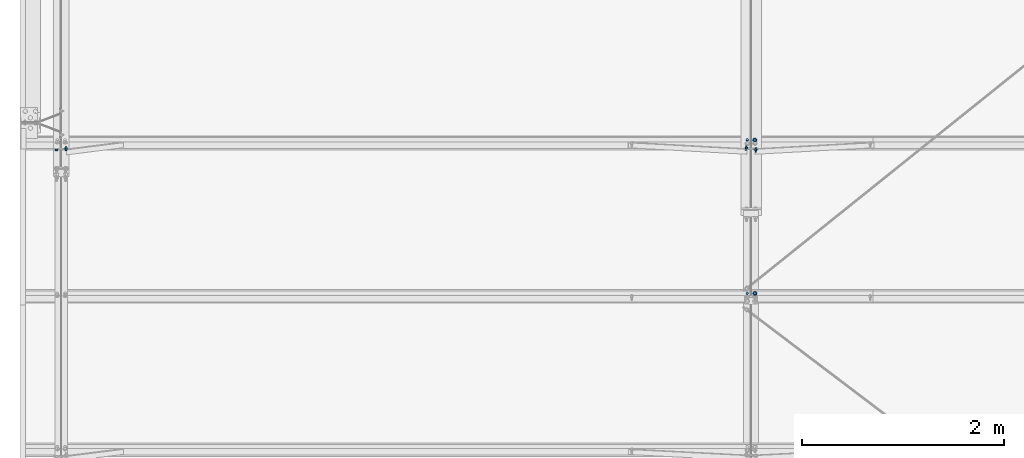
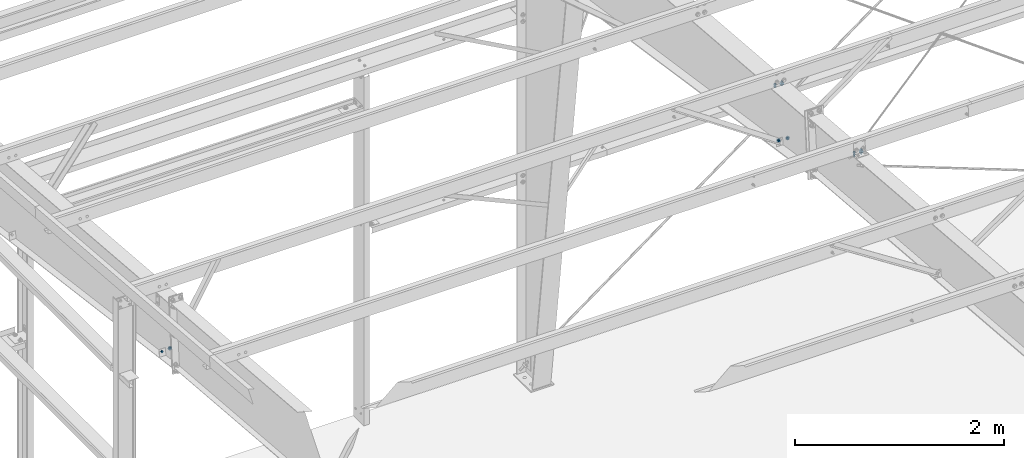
# One storey, part 149 of 185: 11 mechanical fasteners, 7 elements without a shape of their own.
"""IFC2X3 building model written with IfcOpenShell, lengths in millimetres."""

from ifc_helpers import new_model, si_unit, frame, origin_with_axes, origin_2d_with_axis, place, context, subcontext, project, spatial, polyline, circle, outline, extrude, source, transform, mapped, material, type_object, element, aggregate, save


model = new_model("IFC2X3")

# Units and contexts
model_context = context("Model", 3, precision=1e-05, world=origin_with_axes())
body_context = subcontext(model_context, "Body", "Model", "MODEL_VIEW")
ifc_project = project(units=[si_unit("LENGTHUNIT", "METRE", prefix="MILLI"), si_unit("AREAUNIT", "SQUARE_METRE"), si_unit("VOLUMEUNIT", "CUBIC_METRE"), si_unit("MASSUNIT", "GRAM", prefix="KILO"), si_unit("TIMEUNIT", "SECOND"), si_unit("PLANEANGLEUNIT", "RADIAN"), si_unit("SOLIDANGLEUNIT", "STERADIAN"), si_unit("THERMODYNAMICTEMPERATUREUNIT", "DEGREE_CELSIUS"), si_unit("LUMINOUSINTENSITYUNIT", "LUMEN")], contexts=[model_context])

# Site, building, storey
site_placement = place(None, origin_with_axes())
site = spatial("IfcSite", under=ifc_project, at=site_placement, Name="Undefined", CompositionType="ELEMENT")
building_placement = place(site_placement, origin_with_axes())
building = spatial("IfcBuilding", under=site, at=building_placement, Name="Undefined", CompositionType="ELEMENT")
storey_placement = place(building_placement, origin_with_axes())
storey = spatial("IfcBuildingStorey", under=building, at=storey_placement, Name="Undefined", CompositionType="ELEMENT", Elevation=0.0)

# Assembly, mechanical fastener
assembly_1_placement = place(storey_placement, origin_with_axes())
assembly_1 = element("IfcElementAssembly", 1, at=assembly_1_placement, inside=storey, Name="Steel Assembly", AssemblyPlace="NOTDEFINED", PredefinedType="RIGID_FRAME")
ifc_material_1 = material(Name="Undefined")
discrete_accessory_type = type_object("IfcDiscreteAccessoryType", Name="Bolt assembly")
shared_shape_1 = source(origin_with_axes(), body_context, "Body", "SweptSolid", [
    extrude(circle(Radius=7.14374971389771, at=origin_2d_with_axis()), frame((0.0, -1.59000001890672, 0.0), z_axis=(0.0, 1.0, 0.0), x_axis=(1.0, 0.0, 0.0)), (0.0, 0.0, 1.0), 1.7),
    extrude(outline(polyline([(10.9985221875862, 0.0), (5.4992610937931, 9.52499961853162), (-5.4992610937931, 9.52499961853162), (-10.9985221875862, 0.0), (-5.4992610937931, -9.52499961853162), (5.4992610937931, -9.52499961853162), (10.9985221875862, 0.0)])), frame((0.0, -15.0837496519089, 0.0), z_axis=(0.0, 1.0, 0.0), x_axis=(1.0, 0.0, 0.0)), (0.0, 0.0, 1.0), 9.5),
    extrude(circle(Radius=6.34999990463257, at=origin_2d_with_axis()), frame((0.0, -5.5587500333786, 0.0), z_axis=(0.0, 1.0, 0.0), x_axis=(1.0, 0.0, 0.0)), (0.0, 0.0, 1.0), 38.1),
    extrude(circle(Radius=13.4937496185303, at=origin_2d_with_axis()), frame((0.0, -5.5587500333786, 0.0), z_axis=(0.0, 1.0, 0.0), x_axis=(1.0, 0.0, 0.0)), (0.0, 0.0, 1.0), 4.0),
    extrude(circle(Radius=22.2250003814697, at=origin_2d_with_axis()), frame((0.0, 0.0, 0.0), z_axis=(0.0, 1.0, 0.0), x_axis=(1.0, 0.0, 0.0)), (0.0, 0.0, 1.0), 7.9),
    extrude(outline(polyline([(12.8316099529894, 0.0), (6.4158049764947, 11.1125001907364), (-6.4158049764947, 11.1125001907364), (-12.8316099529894, 0.0), (-6.4158049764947, -11.1125001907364), (6.4158049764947, -11.1125001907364), (12.8316099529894, 0.0)])), frame((0.0, 7.93750000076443, 0.0), z_axis=(0.0, 1.0, 0.0), x_axis=(1.0, 0.0, 0.0)), (0.0, 0.0, 1.0), 12.3),
])
mechanical_fastener_1_placement = place(assembly_1_placement, frame((453.778700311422, 26864.5318232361, 5649.87801537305), z_axis=(-0.836838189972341, 0.0454632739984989, 0.545559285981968), x_axis=(0.54745031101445, 0.0694956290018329, 0.833947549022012)))
mechanical_fastener_1 = element("IfcMechanicalFastener", 2, at=mechanical_fastener_1_placement, type_object=discrete_accessory_type, material=ifc_material_1, Name="Bolt assembly", NominalDiameter=12.6999998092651, NominalLength=38.0999984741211, context=body_context, shape_type="MappedRepresentation", body=[
    mapped(shared_shape_1, transform((0.0, 0.0, 0.0))),
])
aggregate(assembly_1, [mechanical_fastener_1])

assembly_2_placement = place(storey_placement, origin_with_axes())
assembly_2 = element("IfcElementAssembly", 3, at=assembly_2_placement, inside=storey, Name="Steel Assembly", AssemblyPlace="NOTDEFINED", PredefinedType="RIGID_FRAME")
mechanical_fastener_2_placement = place(assembly_2_placement, frame((7191.33576877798, 26870.2165225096, 5718.09440655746), z_axis=(-0.552924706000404, -0.0691960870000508, -0.830353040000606), x_axis=(-0.833231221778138, 0.0459178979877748, 0.551014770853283)))
mechanical_fastener_2 = element("IfcMechanicalFastener", 4, at=mechanical_fastener_2_placement, type_object=discrete_accessory_type, material=ifc_material_1, Name="Bolt assembly", NominalDiameter=12.6999998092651, NominalLength=38.0999984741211, context=body_context, shape_type="MappedRepresentation", body=[
    mapped(shared_shape_1, transform((0.0, 0.0, 0.0))),
])
aggregate(assembly_2, [mechanical_fastener_2])

assembly_3_placement = place(storey_placement, origin_with_axes())
assembly_3 = element("IfcElementAssembly", 5, at=assembly_3_placement, inside=storey, Name="Steel Assembly", AssemblyPlace="NOTDEFINED", PredefinedType="RIGID_FRAME")
shared_shape_2 = source(origin_with_axes(), body_context, "Body", "SweptSolid", [
    extrude(circle(Radius=7.14374971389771, at=origin_2d_with_axis()), frame((0.0, 0.0, 0.0), z_axis=(0.0, 1.0, 0.0), x_axis=(1.0, 0.0, 0.0)), (0.0, 0.0, 1.0), 1.7),
    extrude(outline(polyline([(10.9985221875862, 0.0), (5.4992610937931, 9.52499961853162), (-5.4992610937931, 9.52499961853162), (-10.9985221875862, 0.0), (-5.4992610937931, -9.52499961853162), (5.4992610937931, -9.52499961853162), (10.9985221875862, 0.0)])), frame((0.0, -13.4937496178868, 0.0), z_axis=(0.0, 1.0, 0.0), x_axis=(1.0, 0.0, 0.0)), (0.0, 0.0, 1.0), 9.5),
    extrude(circle(Radius=6.34999990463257, at=origin_2d_with_axis()), frame((0.0, -3.96874999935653, 0.0), z_axis=(0.0, 1.0, 0.0), x_axis=(1.0, 0.0, 0.0)), (0.0, 0.0, 1.0), 38.1),
    extrude(circle(Radius=13.4937496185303, at=origin_2d_with_axis()), frame((0.0, -3.96874999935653, 0.0), z_axis=(0.0, 1.0, 0.0), x_axis=(1.0, 0.0, 0.0)), (0.0, 0.0, 1.0), 4.0),
    extrude(circle(Radius=22.2250003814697, at=origin_2d_with_axis()), frame((0.0, 1.5900000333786, 0.0), z_axis=(0.0, 1.0, 0.0), x_axis=(1.0, 0.0, 0.0)), (0.0, 0.0, 1.0), 7.9),
    extrude(outline(polyline([(12.8316099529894, 0.0), (6.4158049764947, 11.1125001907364), (-6.4158049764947, 11.1125001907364), (-12.8316099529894, 0.0), (-6.4158049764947, -11.1125001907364), (6.4158049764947, -11.1125001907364), (12.8316099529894, 0.0)])), frame((0.0, 9.5275000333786, 0.0), z_axis=(0.0, 1.0, 0.0), x_axis=(1.0, 0.0, 0.0)), (0.0, 0.0, 1.0), 12.3),
])
mechanical_fastener_3_placement = place(assembly_3_placement, frame((7286.66423122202, 26870.2165225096, 5718.09440655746), z_axis=(0.552924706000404, -0.0691960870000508, -0.830353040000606), x_axis=(0.833231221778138, 0.0459178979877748, 0.551014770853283)))
mechanical_fastener_3 = element("IfcMechanicalFastener", 6, at=mechanical_fastener_3_placement, type_object=discrete_accessory_type, material=ifc_material_1, Name="Bolt assembly", NominalDiameter=12.6999998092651, NominalLength=38.0999984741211, context=body_context, shape_type="MappedRepresentation", body=[
    mapped(shared_shape_2, transform((0.0, 0.0, 0.0))),
])
aggregate(assembly_3, [mechanical_fastener_3])

assembly_4_placement = place(storey_placement, origin_with_axes())
assembly_4 = element("IfcElementAssembly", 7, at=assembly_4_placement, inside=storey, Name="Steel Assembly", AssemblyPlace="NOTDEFINED", PredefinedType="RIGID_FRAME")
ifc_material_2 = material(Name="7990")
shared_shape_3 = source(origin_with_axes(), body_context, "Body", "SweptSolid", [
    extrude(circle(Radius=7.14374971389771, at=origin_2d_with_axis()), frame((0.0, -3.41600000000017, 0.0), z_axis=(0.0, 1.0, 0.0), x_axis=(1.0, 0.0, 0.0)), (0.0, 0.0, 1.0), 3.5),
    extrude(circle(Radius=11.4299998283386, at=origin_2d_with_axis()), frame((0.0, 0.0, 0.0), z_axis=(0.0, 1.0, 0.0), x_axis=(1.0, 0.0, 0.0)), (0.0, 0.0, 1.0), 4.2),
    extrude(outline(polyline([(12.171698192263, 0.0), (6.08584909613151, 10.5409998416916), (-6.08584909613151, 10.5409998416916), (-12.171698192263, 0.0), (-6.08584909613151, -10.5409998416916), (6.08584909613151, -10.5409998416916), (12.171698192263, 0.0)])), frame((0.0, 4.1909999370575, 0.0), z_axis=(0.0, 1.0, 0.0), x_axis=(1.0, 0.0, 0.0)), (0.0, 0.0, 1.0), 8.4),
])
mechanical_fastener_4_placement = place(assembly_4_placement, frame((359.568749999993, 26864.4623276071, 5649.04406782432), z_axis=(-0.921635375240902, 0.0322263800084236, 0.386716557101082), x_axis=(-0.388056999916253, -0.0765376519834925, -0.918451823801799)))
mechanical_fastener_4 = element("IfcMechanicalFastener", 8, at=mechanical_fastener_4_placement, type_object=discrete_accessory_type, material=ifc_material_2, Name="Bolt assembly", NominalDiameter=12.6999998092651, NominalLength=38.0999984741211, context=body_context, shape_type="MappedRepresentation", body=[
    mapped(shared_shape_3, transform((0.0, 0.0, 0.0))),
])

assembly_5_placement = place(storey_placement, origin_with_axes())
assembly_5 = element("IfcElementAssembly", 9, at=assembly_5_placement, inside=storey, Name="Steel Assembly", AssemblyPlace="NOTDEFINED", PredefinedType="RIGID_FRAME")
mechanical_fastener_5_placement = place(assembly_5_placement, frame((7285.831, 26870.1706046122, 5717.54339178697), z_axis=(-0.921635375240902, -0.0322263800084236, -0.386716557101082), x_axis=(0.388056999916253, -0.0765376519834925, -0.918451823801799)))
mechanical_fastener_5 = element("IfcMechanicalFastener", 10, at=mechanical_fastener_5_placement, type_object=discrete_accessory_type, material=ifc_material_2, Name="Bolt assembly", NominalDiameter=12.6999998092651, NominalLength=38.0999984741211, context=body_context, shape_type="MappedRepresentation", body=[
    mapped(shared_shape_3, transform((0.0, 0.0, 0.0))),
])

# Mechanical fastener
shared_shape_4 = source(origin_with_axes(), body_context, "Body", "SweptSolid", [
    extrude(circle(Radius=7.14374971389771, at=origin_2d_with_axis()), frame((0.0, 0.0, 0.0), z_axis=(0.0, 1.0, 0.0), x_axis=(1.0, 0.0, 0.0)), (0.0, 0.0, 1.0), 3.5),
    extrude(circle(Radius=11.4299998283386, at=origin_2d_with_axis()), frame((0.0, 3.41600000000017, 0.0), z_axis=(0.0, 1.0, 0.0), x_axis=(1.0, 0.0, 0.0)), (0.0, 0.0, 1.0), 4.2),
    extrude(outline(polyline([(12.171698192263, 0.0), (6.08584909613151, 10.5409998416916), (-6.08584909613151, 10.5409998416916), (-12.171698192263, 0.0), (-6.08584909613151, -10.5409998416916), (6.08584909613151, -10.5409998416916), (12.171698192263, 0.0)])), frame((0.0, 7.60699993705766, 0.0), z_axis=(0.0, 1.0, 0.0), x_axis=(1.0, 0.0, 0.0)), (0.0, 0.0, 1.0), 8.4),
])
mechanical_fastener_6_placement = place(assembly_4_placement, frame((453.231249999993, 26864.4623276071, 5649.04406782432), z_axis=(0.921635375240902, 0.0322263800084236, 0.386716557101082), x_axis=(0.388056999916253, -0.0765376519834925, -0.918451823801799)))
mechanical_fastener_6 = element("IfcMechanicalFastener", 11, at=mechanical_fastener_6_placement, type_object=discrete_accessory_type, material=ifc_material_2, Name="Bolt assembly", NominalDiameter=12.6999998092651, NominalLength=38.0999984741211, context=body_context, shape_type="MappedRepresentation", body=[
    mapped(shared_shape_4, transform((0.0, 0.0, 0.0))),
])

aggregate(assembly_4, [mechanical_fastener_6, mechanical_fastener_4])

mechanical_fastener_7_placement = place(assembly_5_placement, frame((7192.169, 26870.1706046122, 5717.54339178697), z_axis=(0.921635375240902, -0.0322263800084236, -0.386716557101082), x_axis=(-0.388056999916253, -0.0765376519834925, -0.918451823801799)))
mechanical_fastener_7 = element("IfcMechanicalFastener", 12, at=mechanical_fastener_7_placement, type_object=discrete_accessory_type, material=ifc_material_2, Name="Bolt assembly", NominalDiameter=12.6999998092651, NominalLength=38.0999984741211, context=body_context, shape_type="MappedRepresentation", body=[
    mapped(shared_shape_4, transform((0.0, 0.0, 0.0))),
])

aggregate(assembly_5, [mechanical_fastener_7, mechanical_fastener_5])

# Assembly, mechanical fasteners
assembly_6_placement = place(storey_placement, origin_with_axes())
assembly_6 = element("IfcElementAssembly", 13, at=assembly_6_placement, inside=storey, Name="Steel Assembly", AssemblyPlace="NOTDEFINED", PredefinedType="RIGID_FRAME")
shared_shape_5 = source(origin_with_axes(), body_context, "Body", "SweptSolid", [
    extrude(circle(Radius=7.14374971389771, at=origin_2d_with_axis()), frame((0.0, -0.0238014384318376, 0.0), z_axis=(0.0, 1.0, 0.0), x_axis=(1.0, 0.0, 0.0)), (0.0, 0.0, 1.0), 8.0),
    extrude(circle(Radius=7.14374971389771, at=origin_2d_with_axis()), frame((0.0, -3.08000006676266, 0.0), z_axis=(0.0, 1.0, 0.0), x_axis=(1.0, 0.0, 0.0)), (0.0, 0.0, 1.0), 3.2),
    extrude(circle(Radius=7.14374971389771, at=origin_2d_with_axis()), frame((0.0, -3.08000006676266, 0.0), z_axis=(0.0, 1.0, 0.0), x_axis=(1.0, 0.0, 0.0)), (0.0, 0.0, 1.0), 3.2),
    extrude(outline(polyline([(12.8316099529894, 0.0), (6.4158049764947, 11.1125001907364), (-6.4158049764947, 11.1125001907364), (-12.8316099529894, 0.0), (-6.4158049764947, -11.1125001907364), (6.4158049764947, -11.1125001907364), (12.8316099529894, 0.0)])), frame((0.0, -15.08625183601, 0.0), z_axis=(0.0, 1.0, 0.0), x_axis=(1.0, 0.0, 0.0)), (0.0, 0.0, 1.0), 7.9),
    extrude(circle(Radius=6.34999990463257, at=origin_2d_with_axis()), frame((0.0, -7.14875006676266, 0.0), z_axis=(0.0, 1.0, 0.0), x_axis=(1.0, 0.0, 0.0)), (0.0, 0.0, 1.0), 50.8),
    extrude(circle(Radius=13.4937496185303, at=origin_2d_with_axis()), frame((0.0, -7.14875006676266, 0.0), z_axis=(0.0, 1.0, 0.0), x_axis=(1.0, 0.0, 0.0)), (0.0, 0.0, 1.0), 4.0),
    extrude(circle(Radius=22.2250003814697, at=origin_2d_with_axis()), frame((0.0, 7.95019856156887, 0.0), z_axis=(0.0, 1.0, 0.0), x_axis=(1.0, 0.0, 0.0)), (0.0, 0.0, 1.0), 7.9),
    extrude(outline(polyline([(12.8316099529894, 0.0), (6.4158049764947, 11.1125001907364), (-6.4158049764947, 11.1125001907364), (-12.8316099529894, 0.0), (-6.4158049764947, -11.1125001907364), (6.4158049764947, -11.1125001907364), (12.8316099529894, 0.0)])), frame((0.0, 15.8876985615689, 0.0), z_axis=(0.0, 1.0, 0.0), x_axis=(1.0, 0.0, 0.0)), (0.0, 0.0, 1.0), 12.3),
])
mechanical_fastener_8_placement = place(assembly_6_placement, frame((7277.1, 25439.2546863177, 6439.15777570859), z_axis=(-1.0, 0.0, 0.0), x_axis=(0.0, 0.996545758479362, -0.0830454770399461)))
mechanical_fastener_8 = element("IfcMechanicalFastener", 14, at=mechanical_fastener_8_placement, type_object=discrete_accessory_type, material=ifc_material_1, Name="Bolt assembly", NominalDiameter=12.6999998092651, NominalLength=50.7999992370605, context=body_context, shape_type="MappedRepresentation", body=[
    mapped(shared_shape_5, transform((0.0, 0.0, 0.0))),
])
shared_shape_6 = source(origin_with_axes(), body_context, "Body", "SweptSolid", [
    extrude(circle(Radius=7.14374971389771, at=origin_2d_with_axis()), frame((0.0, -0.0238014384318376, 0.0), z_axis=(0.0, 1.0, 0.0), x_axis=(1.0, 0.0, 0.0)), (0.0, 0.0, 1.0), 8.0),
    extrude(circle(Radius=7.14374971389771, at=origin_2d_with_axis()), frame((0.0, -3.08000006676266, 0.0), z_axis=(0.0, 1.0, 0.0), x_axis=(1.0, 0.0, 0.0)), (0.0, 0.0, 1.0), 3.2),
    extrude(circle(Radius=7.14374971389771, at=origin_2d_with_axis()), frame((0.0, -3.08000006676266, 0.0), z_axis=(0.0, 1.0, 0.0), x_axis=(1.0, 0.0, 0.0)), (0.0, 0.0, 1.0), 3.2),
    extrude(outline(polyline([(12.8316099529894, 0.0), (6.4158049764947, 11.1125001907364), (-6.4158049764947, 11.1125001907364), (-12.8316099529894, 0.0), (-6.4158049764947, -11.1125001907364), (6.4158049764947, -11.1125001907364), (12.8316099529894, 0.0)])), frame((0.0, -15.08625183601, 0.0), z_axis=(0.0, 1.0, 0.0), x_axis=(1.0, 0.0, 0.0)), (0.0, 0.0, 1.0), 7.9),
    extrude(circle(Radius=6.34999990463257, at=origin_2d_with_axis()), frame((0.0, -7.14875006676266, 0.0), z_axis=(0.0, 1.0, 0.0), x_axis=(1.0, 0.0, 0.0)), (0.0, 0.0, 1.0), 50.8),
    extrude(circle(Radius=13.4937496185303, at=origin_2d_with_axis()), frame((0.0, -7.14875006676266, 0.0), z_axis=(0.0, 1.0, 0.0), x_axis=(1.0, 0.0, 0.0)), (0.0, 0.0, 1.0), 4.0),
    extrude(outline(polyline([(12.8316099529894, 0.0), (6.4158049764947, 11.1125001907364), (-6.4158049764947, 11.1125001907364), (-12.8316099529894, 0.0), (-6.4158049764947, -11.1125001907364), (6.4158049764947, -11.1125001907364), (12.8316099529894, 0.0)])), frame((0.0, 7.95019856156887, 0.0), z_axis=(0.0, 1.0, 0.0), x_axis=(1.0, 0.0, 0.0)), (0.0, 0.0, 1.0), 12.3),
])
mechanical_fastener_9_placement = place(assembly_6_placement, frame((7200.9, 25439.2546863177, 6439.15777570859), z_axis=(-1.0, 0.0, 0.0), x_axis=(0.0, 0.996545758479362, -0.0830454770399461)))
mechanical_fastener_9 = element("IfcMechanicalFastener", 15, at=mechanical_fastener_9_placement, type_object=discrete_accessory_type, material=ifc_material_1, Name="Bolt assembly", NominalDiameter=12.6999998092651, NominalLength=50.7999992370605, context=body_context, shape_type="MappedRepresentation", body=[
    mapped(shared_shape_6, transform((0.0, 0.0, 0.0))),
])
aggregate(assembly_6, [mechanical_fastener_8, mechanical_fastener_9])

assembly_7_placement = place(storey_placement, origin_with_axes())
assembly_7 = element("IfcElementAssembly", 16, at=assembly_7_placement, inside=storey, Name="Steel Assembly", AssemblyPlace="NOTDEFINED", PredefinedType="RIGID_FRAME")
shared_shape_7 = source(origin_with_axes(), body_context, "Body", "SweptSolid", [
    extrude(circle(Radius=7.14374971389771, at=origin_2d_with_axis()), frame((0.0, -0.0238014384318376, 0.0), z_axis=(0.0, 1.0, 0.0), x_axis=(1.0, 0.0, 0.0)), (0.0, 0.0, 1.0), 8.0),
    extrude(circle(Radius=7.14374971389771, at=origin_2d_with_axis()), frame((0.0, -3.08000006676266, 0.0), z_axis=(0.0, 1.0, 0.0), x_axis=(1.0, 0.0, 0.0)), (0.0, 0.0, 1.0), 3.2),
    extrude(circle(Radius=7.14374971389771, at=origin_2d_with_axis()), frame((0.0, -3.08000006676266, 0.0), z_axis=(0.0, 1.0, 0.0), x_axis=(1.0, 0.0, 0.0)), (0.0, 0.0, 1.0), 3.2),
    extrude(outline(polyline([(10.9985221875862, 0.0), (5.4992610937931, 9.52499961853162), (-5.4992610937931, 9.52499961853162), (-10.9985221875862, 0.0), (-5.4992610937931, -9.52499961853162), (5.4992610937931, -9.52499961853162), (10.9985221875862, 0.0)])), frame((0.0, -16.6737496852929, 0.0), z_axis=(0.0, 1.0, 0.0), x_axis=(1.0, 0.0, 0.0)), (0.0, 0.0, 1.0), 9.5),
    extrude(circle(Radius=6.34999990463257, at=origin_2d_with_axis()), frame((0.0, -7.14875006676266, 0.0), z_axis=(0.0, 1.0, 0.0), x_axis=(1.0, 0.0, 0.0)), (0.0, 0.0, 1.0), 38.1),
    extrude(circle(Radius=13.4937496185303, at=origin_2d_with_axis()), frame((0.0, -7.14875006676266, 0.0), z_axis=(0.0, 1.0, 0.0), x_axis=(1.0, 0.0, 0.0)), (0.0, 0.0, 1.0), 4.0),
    extrude(circle(Radius=22.2250003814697, at=origin_2d_with_axis()), frame((0.0, 7.95019856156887, 0.0), z_axis=(0.0, 1.0, 0.0), x_axis=(1.0, 0.0, 0.0)), (0.0, 0.0, 1.0), 7.9),
    extrude(outline(polyline([(12.8316099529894, 0.0), (6.4158049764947, 11.1125001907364), (-6.4158049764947, 11.1125001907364), (-12.8316099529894, 0.0), (-6.4158049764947, -11.1125001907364), (6.4158049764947, -11.1125001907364), (12.8316099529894, 0.0)])), frame((0.0, 15.8876985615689, 0.0), z_axis=(0.0, 1.0, 0.0), x_axis=(1.0, 0.0, 0.0)), (0.0, 0.0, 1.0), 12.3),
])
mechanical_fastener_10_placement = place(assembly_7_placement, frame((7277.1, 26957.9904234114, 6312.59646404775), z_axis=(-1.0, 0.0, 0.0), x_axis=(0.0, 0.996545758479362, -0.0830454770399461)))
mechanical_fastener_10 = element("IfcMechanicalFastener", 17, at=mechanical_fastener_10_placement, type_object=discrete_accessory_type, material=ifc_material_1, Name="Bolt assembly", NominalDiameter=12.6999998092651, NominalLength=38.0999984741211, context=body_context, shape_type="MappedRepresentation", body=[
    mapped(shared_shape_7, transform((0.0, 0.0, 0.0))),
])
shared_shape_8 = source(origin_with_axes(), body_context, "Body", "SweptSolid", [
    extrude(circle(Radius=7.14374971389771, at=origin_2d_with_axis()), frame((0.0, -0.0238014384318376, 0.0), z_axis=(0.0, 1.0, 0.0), x_axis=(1.0, 0.0, 0.0)), (0.0, 0.0, 1.0), 8.0),
    extrude(circle(Radius=7.14374971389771, at=origin_2d_with_axis()), frame((0.0, -3.08000006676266, 0.0), z_axis=(0.0, 1.0, 0.0), x_axis=(1.0, 0.0, 0.0)), (0.0, 0.0, 1.0), 3.2),
    extrude(circle(Radius=7.14374971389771, at=origin_2d_with_axis()), frame((0.0, -3.08000006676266, 0.0), z_axis=(0.0, 1.0, 0.0), x_axis=(1.0, 0.0, 0.0)), (0.0, 0.0, 1.0), 3.2),
    extrude(outline(polyline([(10.9985221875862, 0.0), (5.4992610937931, 9.52499961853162), (-5.4992610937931, 9.52499961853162), (-10.9985221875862, 0.0), (-5.4992610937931, -9.52499961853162), (5.4992610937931, -9.52499961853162), (10.9985221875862, 0.0)])), frame((0.0, -16.6737496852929, 0.0), z_axis=(0.0, 1.0, 0.0), x_axis=(1.0, 0.0, 0.0)), (0.0, 0.0, 1.0), 9.5),
    extrude(circle(Radius=6.34999990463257, at=origin_2d_with_axis()), frame((0.0, -7.14875006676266, 0.0), z_axis=(0.0, 1.0, 0.0), x_axis=(1.0, 0.0, 0.0)), (0.0, 0.0, 1.0), 38.1),
    extrude(circle(Radius=13.4937496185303, at=origin_2d_with_axis()), frame((0.0, -7.14875006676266, 0.0), z_axis=(0.0, 1.0, 0.0), x_axis=(1.0, 0.0, 0.0)), (0.0, 0.0, 1.0), 4.0),
    extrude(outline(polyline([(12.8316099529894, 0.0), (6.4158049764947, 11.1125001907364), (-6.4158049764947, 11.1125001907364), (-12.8316099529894, 0.0), (-6.4158049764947, -11.1125001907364), (6.4158049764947, -11.1125001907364), (12.8316099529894, 0.0)])), frame((0.0, 7.95019856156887, 0.0), z_axis=(0.0, 1.0, 0.0), x_axis=(1.0, 0.0, 0.0)), (0.0, 0.0, 1.0), 12.3),
])
mechanical_fastener_11_placement = place(assembly_7_placement, frame((7200.9, 26957.9904234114, 6312.59646404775), z_axis=(-1.0, 0.0, 0.0), x_axis=(0.0, 0.996545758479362, -0.0830454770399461)))
mechanical_fastener_11 = element("IfcMechanicalFastener", 18, at=mechanical_fastener_11_placement, type_object=discrete_accessory_type, material=ifc_material_1, Name="Bolt assembly", NominalDiameter=12.6999998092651, NominalLength=38.0999984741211, context=body_context, shape_type="MappedRepresentation", body=[
    mapped(shared_shape_8, transform((0.0, 0.0, 0.0))),
])
aggregate(assembly_7, [mechanical_fastener_10, mechanical_fastener_11])

save(model, "model.ifc")
